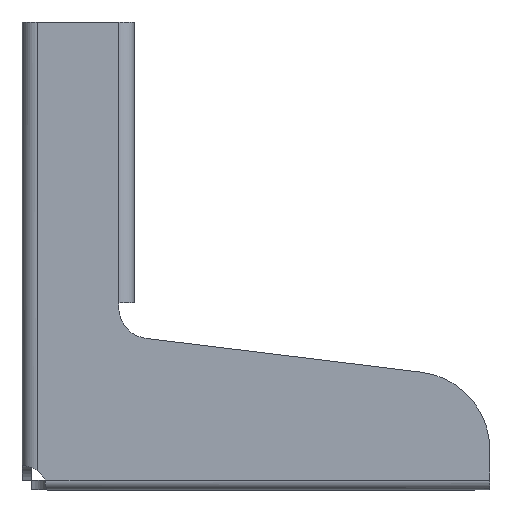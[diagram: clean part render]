
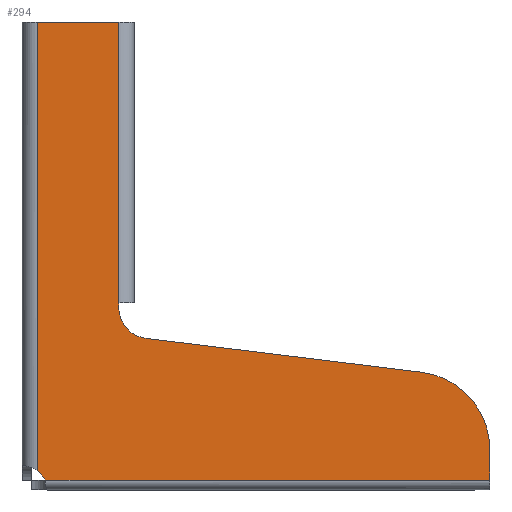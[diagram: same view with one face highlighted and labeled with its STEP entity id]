
A CAD part, top view. The second image highlights one B-rep face of the part: STEP entity #294.
In plain terms, the highlighted planar face has unit normal (0, 0, 1).
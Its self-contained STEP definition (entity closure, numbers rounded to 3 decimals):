
#15 = VECTOR ( 'NONE', #2484, 1000. ) ;
#24 = CARTESIAN_POINT ( 'NONE',  ( 114.225, 30.667, 3. ) ) ;
#99 = ORIENTED_EDGE ( 'NONE', *, *, #1973, .T. ) ;
#216 = AXIS2_PLACEMENT_3D ( 'NONE', #2009, #432, #230 ) ;
#230 = DIRECTION ( 'NONE',  ( -1., 0., 0. ) ) ;
#294 = ADVANCED_FACE ( 'NONE', ( #1811 ), #1049, .F. ) ;
#327 = ORIENTED_EDGE ( 'NONE', *, *, #2388, .T. ) ;
#369 = VERTEX_POINT ( 'NONE', #1593 ) ;
#402 = ORIENTED_EDGE ( 'NONE', *, *, #807, .T. ) ;
#428 = AXIS2_PLACEMENT_3D ( 'NONE', #598, #1559, #2474 ) ;
#432 = DIRECTION ( 'NONE',  ( 0., 0., -1. ) ) ;
#451 = ORIENTED_EDGE ( 'NONE', *, *, #623, .F. ) ;
#457 = DIRECTION ( 'NONE',  ( 0., 0., -1. ) ) ;
#473 = CARTESIAN_POINT ( 'NONE',  ( -42.321, 142.972, 3. ) ) ;
#509 = DIRECTION ( 'NONE',  ( 0., 0., -1. ) ) ;
#517 = VERTEX_POINT ( 'NONE', #1074 ) ;
#532 = ORIENTED_EDGE ( 'NONE', *, *, #1484, .T. ) ;
#571 = DIRECTION ( 'NONE',  ( 0., 1., 0. ) ) ;
#598 = CARTESIAN_POINT ( 'NONE',  ( 111.179, 5.854, 3. ) ) ;
#623 = EDGE_CURVE ( 'NONE', #1507, #947, #1716, .T. ) ;
#624 = VECTOR ( 'NONE', #786, 1000. ) ;
#626 = LINE ( 'NONE', #473, #1794 ) ;
#627 = CARTESIAN_POINT ( 'NONE',  ( 17.179, 51.431, 3. ) ) ;
#667 = CIRCLE ( 'NONE', #1714, 7.5 ) ;
#748 = VERTEX_POINT ( 'NONE', #808 ) ;
#766 = CARTESIAN_POINT ( 'NONE',  ( -8.821, 51.431, 3. ) ) ;
#786 = DIRECTION ( 'NONE',  ( -0.993, 0.122, 0. ) ) ;
#807 = EDGE_CURVE ( 'NONE', #2294, #2003, #1621, .T. ) ;
#808 = CARTESIAN_POINT ( 'NONE',  ( 17.179, 52.972, 3. ) ) ;
#840 = LINE ( 'NONE', #2414, #2468 ) ;
#904 = LINE ( 'NONE', #1279, #2095 ) ;
#934 = AXIS2_PLACEMENT_3D ( 'NONE', #2152, #457, #2186 ) ;
#947 = VERTEX_POINT ( 'NONE', #2031 ) ;
#1007 = CARTESIAN_POINT ( 'NONE',  ( 17.179, 52.972, 3. ) ) ;
#1008 = ORIENTED_EDGE ( 'NONE', *, *, #2087, .T. ) ;
#1049 = PLANE ( 'NONE',  #934 ) ;
#1074 = CARTESIAN_POINT ( 'NONE',  ( -6.496, -3.928, 3. ) ) ;
#1172 = VERTEX_POINT ( 'NONE', #1532 ) ;
#1204 = VECTOR ( 'NONE', #1941, 1000. ) ;
#1229 = CARTESIAN_POINT ( 'NONE',  ( -8.821, -0.797, 3. ) ) ;
#1248 = VERTEX_POINT ( 'NONE', #2308 ) ;
#1267 = CIRCLE ( 'NONE', #428, 25. ) ;
#1279 = CARTESIAN_POINT ( 'NONE',  ( 27.179, -3.928, 3. ) ) ;
#1398 = DIRECTION ( 'NONE',  ( -1., 0., 0. ) ) ;
#1484 = EDGE_CURVE ( 'NONE', #1172, #2169, #840, .T. ) ;
#1504 = ORIENTED_EDGE ( 'NONE', *, *, #1781, .T. ) ;
#1507 = VERTEX_POINT ( 'NONE', #1229 ) ;
#1509 = CARTESIAN_POINT ( 'NONE',  ( -13.473, -6.68, 3. ) ) ;
#1532 = CARTESIAN_POINT ( 'NONE',  ( 136.179, -3.928, 3. ) ) ;
#1558 = EDGE_LOOP ( 'NONE', ( #99, #327, #532, #1008, #1816, #402, #1784, #1609, #1504, #451 ) ) ;
#1559 = DIRECTION ( 'NONE',  ( 0., 0., 1. ) ) ;
#1593 = CARTESIAN_POINT ( 'NONE',  ( 17.179, 142.972, 3. ) ) ;
#1609 = ORIENTED_EDGE ( 'NONE', *, *, #2482, .F. ) ;
#1610 = DIRECTION ( 'NONE',  ( 0., 1., 0. ) ) ;
#1621 = CIRCLE ( 'NONE', #216, 10. ) ;
#1687 = CARTESIAN_POINT ( 'NONE',  ( 25.96, 41.505, 3. ) ) ;
#1714 = AXIS2_PLACEMENT_3D ( 'NONE', #1509, #509, #2281 ) ;
#1716 = LINE ( 'NONE', #766, #15 ) ;
#1726 = VECTOR ( 'NONE', #571, 1000. ) ;
#1753 = LINE ( 'NONE', #24, #624 ) ;
#1768 = EDGE_CURVE ( 'NONE', #1248, #2294, #1753, .T. ) ;
#1781 = EDGE_CURVE ( 'NONE', #369, #947, #626, .T. ) ;
#1784 = ORIENTED_EDGE ( 'NONE', *, *, #2464, .T. ) ;
#1793 = CARTESIAN_POINT ( 'NONE',  ( 136.179, 5.854, 3. ) ) ;
#1794 = VECTOR ( 'NONE', #1398, 1000. ) ;
#1811 = FACE_OUTER_BOUND ( 'NONE', #1558, .T. ) ;
#1816 = ORIENTED_EDGE ( 'NONE', *, *, #1768, .T. ) ;
#1918 = LINE ( 'NONE', #1007, #1726 ) ;
#1941 = DIRECTION ( 'NONE',  ( 0., -1., 0. ) ) ;
#1972 = LINE ( 'NONE', #627, #1204 ) ;
#1973 = EDGE_CURVE ( 'NONE', #1507, #517, #667, .T. ) ;
#2003 = VERTEX_POINT ( 'NONE', #2053 ) ;
#2009 = CARTESIAN_POINT ( 'NONE',  ( 27.179, 51.431, 3. ) ) ;
#2031 = CARTESIAN_POINT ( 'NONE',  ( -8.821, 142.972, 3. ) ) ;
#2053 = CARTESIAN_POINT ( 'NONE',  ( 17.179, 51.431, 3. ) ) ;
#2067 = DIRECTION ( 'NONE',  ( 1., 0., 0. ) ) ;
#2087 = EDGE_CURVE ( 'NONE', #2169, #1248, #1267, .T. ) ;
#2095 = VECTOR ( 'NONE', #2067, 1000. ) ;
#2152 = CARTESIAN_POINT ( 'NONE',  ( 27.179, 51.431, 3. ) ) ;
#2169 = VERTEX_POINT ( 'NONE', #1793 ) ;
#2186 = DIRECTION ( 'NONE',  ( -1., 0., 0. ) ) ;
#2281 = DIRECTION ( 'NONE',  ( 1., 0., 0. ) ) ;
#2294 = VERTEX_POINT ( 'NONE', #1687 ) ;
#2308 = CARTESIAN_POINT ( 'NONE',  ( 114.225, 30.667, 3. ) ) ;
#2388 = EDGE_CURVE ( 'NONE', #517, #1172, #904, .T. ) ;
#2414 = CARTESIAN_POINT ( 'NONE',  ( 136.179, 5.854, 3. ) ) ;
#2464 = EDGE_CURVE ( 'NONE', #2003, #748, #1918, .T. ) ;
#2468 = VECTOR ( 'NONE', #1610, 1000. ) ;
#2474 = DIRECTION ( 'NONE',  ( 1., 0., 0. ) ) ;
#2482 = EDGE_CURVE ( 'NONE', #369, #748, #1972, .T. ) ;
#2484 = DIRECTION ( 'NONE',  ( 0., 1., 0. ) ) ;
